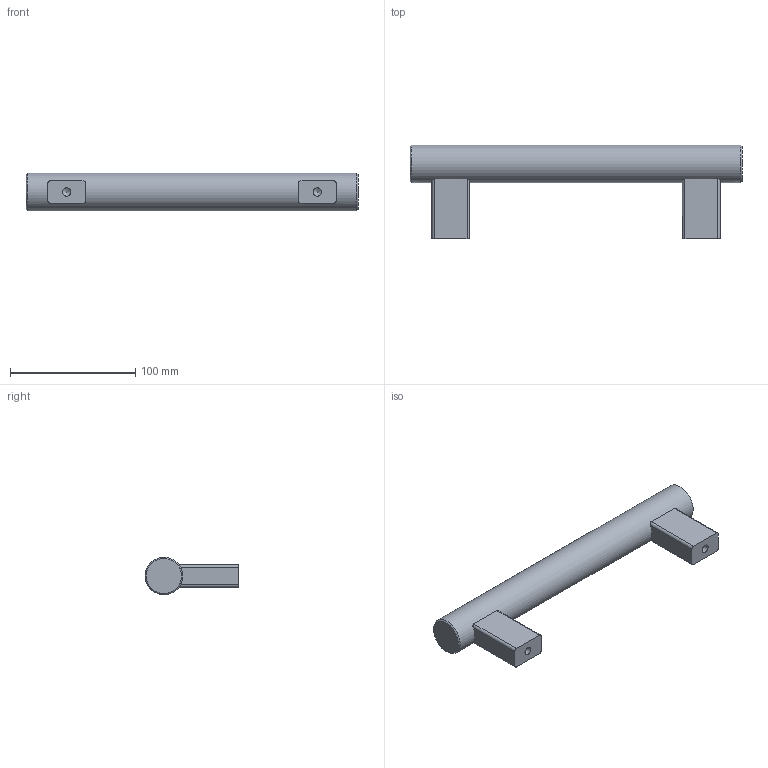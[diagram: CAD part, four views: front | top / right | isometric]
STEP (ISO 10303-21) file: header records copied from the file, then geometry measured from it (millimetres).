
FILE_DESCRIPTION( ( 'STEP AP203' ), '1' );
FILE_NAME( 'C:/Temp/Ganter_Step_05_03_2020/data/1_2/gn_666/Tubular handle GN 666-30-M8-200-WS.stp', '2020-03-05T10:18:15', ( 'License CC BY-ND 4.0' ), ( 'CADENAS' ), ' ', 'PARTsolutions', ' ' );
FILE_SCHEMA( ( 'CONFIG_CONTROL_DESIGN' ) );
Length unit declared in the file: millimetre
Products named in the file (1): _Tubular handle GN 666-30-M8-200-WS
Bounding box: 265 x 75 x 30 mm (x, y, z)
Volume: 235237 mm3; surface area: 35699.7 mm2
Topology: 1 solids, 1 shells, 27 faces, 65 edges, 42 vertices
Faces by surface type: plane 12, cylinder 11, cone 4
Full cylindrical faces by diameter (mm): 6.647 x2, 30 x1
Entity records: 882 total; most frequent: CARTESIAN_POINT 238, DIRECTION 124, ORIENTED_EDGE 112, EDGE_CURVE 56, AXIS2_PLACEMENT_3D 48, VERTEX_POINT 42, EDGE_LOOP 36, FACE_OUTER_BOUND 30
